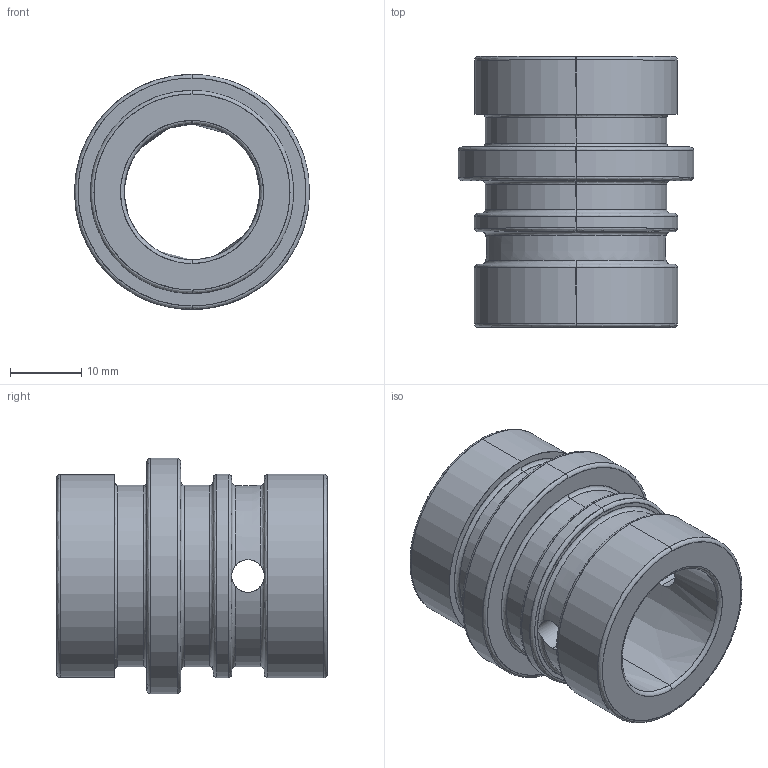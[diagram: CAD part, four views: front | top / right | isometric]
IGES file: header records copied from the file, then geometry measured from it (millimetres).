
Start section: SolidWorks IGES file using analytic representation for surfaces
Global section: file name: C:\Users\Ryan\Documents\PCS\Guided Ejector Bushings\BGEB-750.igs; native system: SolidWorks 2009; preprocessor: SolidWorks 2009; author: Ryan; date: 140228.160252; units: inch
Bounding box: 33.07 x 38.1 x 33.07 mm (x, y, z)
Surface area: 7317.9 mm2 (no closed solid volume)
Topology: 0 solids, 0 shells, 61 faces, 1234 edges, 1234 vertices
Faces by surface type: bspline 38, revolution 23
